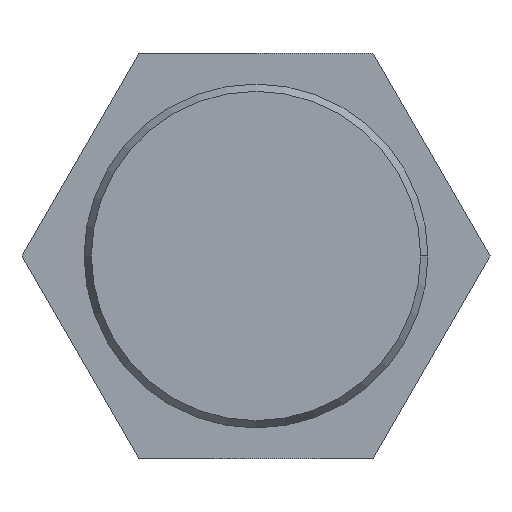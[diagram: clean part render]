
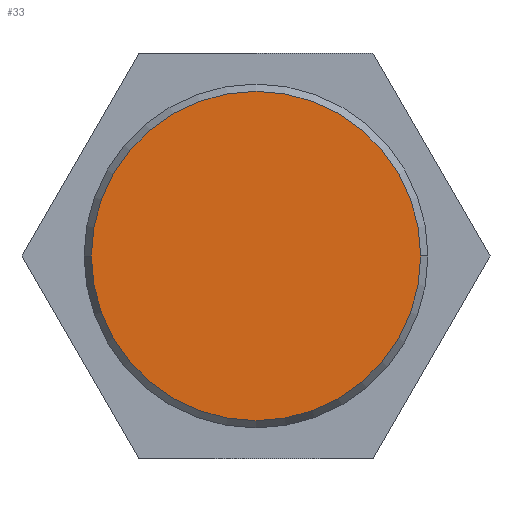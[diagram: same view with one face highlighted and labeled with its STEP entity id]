
A CAD part, left-side view. The second image highlights one B-rep face of the part: STEP entity #33.
In plain terms, the highlighted planar face has unit normal (-1, 0, 0).
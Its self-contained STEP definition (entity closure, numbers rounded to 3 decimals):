
#4 = DIRECTION ( 'NONE',  ( 0., 1., 0. ) ) ;
#33 = ADVANCED_FACE ( 'NONE', ( #647 ), #544, .T. ) ;
#41 = DIRECTION ( 'NONE',  ( 0., -1., 0. ) ) ;
#90 = CIRCLE ( 'NONE', #481, 13. ) ;
#109 = EDGE_CURVE ( 'NONE', #211, #432, #90, .T. ) ;
#211 = VERTEX_POINT ( 'NONE', #529 ) ;
#213 = CARTESIAN_POINT ( 'NONE',  ( 0., 13., 0. ) ) ;
#251 = AXIS2_PLACEMENT_3D ( 'NONE', #401, #406, #423 ) ;
#263 = DIRECTION ( 'NONE',  ( 1., 0., 0. ) ) ;
#292 = DIRECTION ( 'NONE',  ( -1., 0., 0. ) ) ;
#313 = CARTESIAN_POINT ( 'NONE',  ( 0., 0., 0. ) ) ;
#331 = EDGE_CURVE ( 'NONE', #432, #211, #597, .T. ) ;
#334 = AXIS2_PLACEMENT_3D ( 'NONE', #499, #292, #41 ) ;
#392 = EDGE_LOOP ( 'NONE', ( #584, #482 ) ) ;
#401 = CARTESIAN_POINT ( 'NONE',  ( 0., 0., 0. ) ) ;
#406 = DIRECTION ( 'NONE',  ( 1., 0., 0. ) ) ;
#423 = DIRECTION ( 'NONE',  ( 0., 1., 0. ) ) ;
#432 = VERTEX_POINT ( 'NONE', #213 ) ;
#481 = AXIS2_PLACEMENT_3D ( 'NONE', #313, #263, #4 ) ;
#482 = ORIENTED_EDGE ( 'NONE', *, *, #109, .F. ) ;
#499 = CARTESIAN_POINT ( 'NONE',  ( 0., 0., 0. ) ) ;
#529 = CARTESIAN_POINT ( 'NONE',  ( 0., -13., 0. ) ) ;
#544 = PLANE ( 'NONE',  #334 ) ;
#584 = ORIENTED_EDGE ( 'NONE', *, *, #331, .F. ) ;
#597 = CIRCLE ( 'NONE', #251, 13. ) ;
#647 = FACE_OUTER_BOUND ( 'NONE', #392, .T. ) ;
